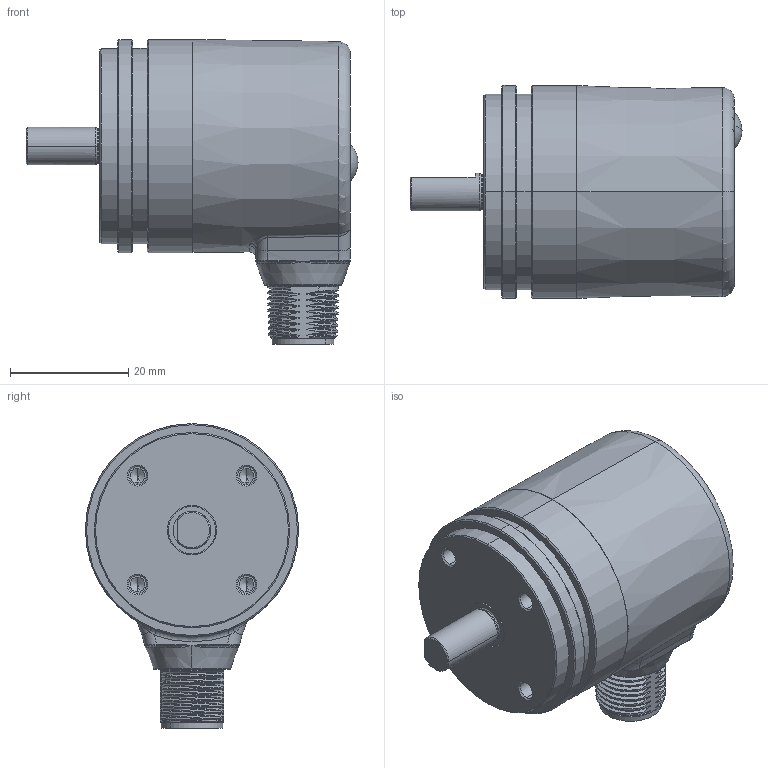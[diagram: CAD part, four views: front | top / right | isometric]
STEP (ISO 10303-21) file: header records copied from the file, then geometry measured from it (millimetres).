
FILE_DESCRIPTION (( 'STEP AP214' ), '1' );
FILE_NAME ('3651.25X4.XXXX.STEP', '2008-09-17T05:15:21', ( 'admin' ), ( 'Fritz Kübler GmbH' ), 'SwSTEP 2.0', 'SolidWorks 2008', '' );
FILE_SCHEMA (( 'AUTOMOTIVE_DESIGN' ));
Length unit declared in the file: millimetre
Products named in the file (1): 3651.25X4.XXXX
Bounding box: 56.09 x 36 x 51.5 mm (x, y, z)
Volume: 21430.3 mm3; surface area: 18738.7 mm2
Topology: 6 solids, 6 shells, 731 faces, 1709 edges, 1039 vertices
Faces by surface type: cylinder 196, cone 163, plane 150, bspline 130, torus 86, sphere 6
Entity records: 47978 total; most frequent: CARTESIAN_POINT 24119, ORIENTED_EDGE 3370, DIRECTION 3166, EDGE_CURVE 1685, AXIS2_PLACEMENT_3D 1321, VERTEX_POINT 1039, EDGE_LOOP 810, UNCERTAINTY_MEASURE_WITH_UNIT 738
